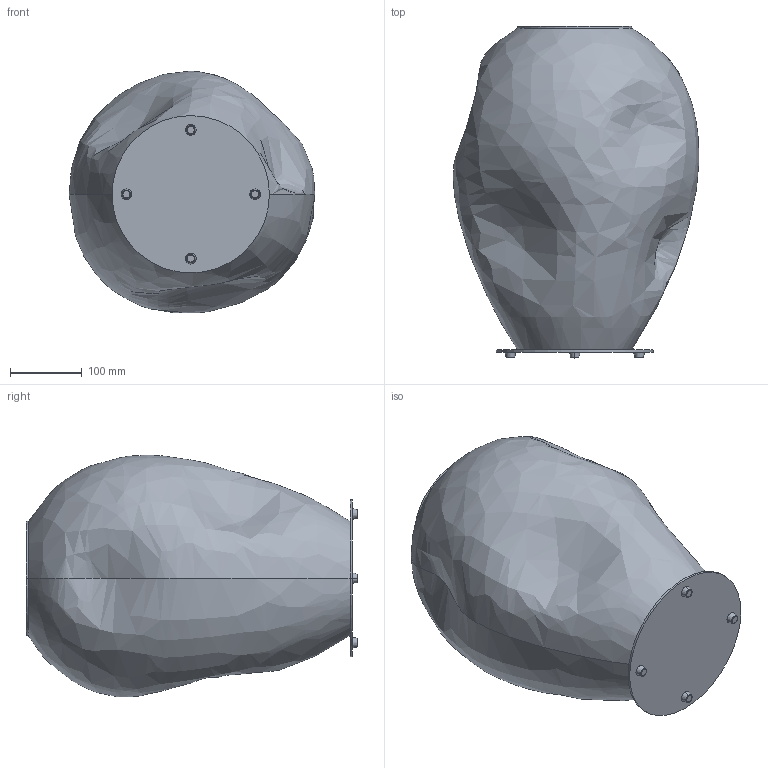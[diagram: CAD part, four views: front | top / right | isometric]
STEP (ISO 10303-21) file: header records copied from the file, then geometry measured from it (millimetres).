
FILE_DESCRIPTION (( 'STEP AP214' ), '1' );
FILE_NAME ('NAC131.STEP', '2023-07-20T11:35:42', ( '' ), ( '' ), 'SwSTEP 2.0', 'SolidWorks 2018', '' );
FILE_SCHEMA (( 'AUTOMOTIVE_DESIGN' ));
Length unit declared in the file: millimetre
Products named in the file (1): NAC131
Bounding box: 343.61 x 464 x 338.32 mm (x, y, z)
Volume: 28167421.7 mm3; surface area: 600052.4 mm2
Topology: 7 solids, 7 shells, 36 faces, 58 edges, 36 vertices
Faces by surface type: plane 14, torus 8, cone 8, cylinder 4, bspline 2
Entity records: 2223 total; most frequent: CARTESIAN_POINT 1446, DIRECTION 162, ORIENTED_EDGE 116, AXIS2_PLACEMENT_3D 75, EDGE_CURVE 58, CIRCLE 40, EDGE_LOOP 36, VERTEX_POINT 36
